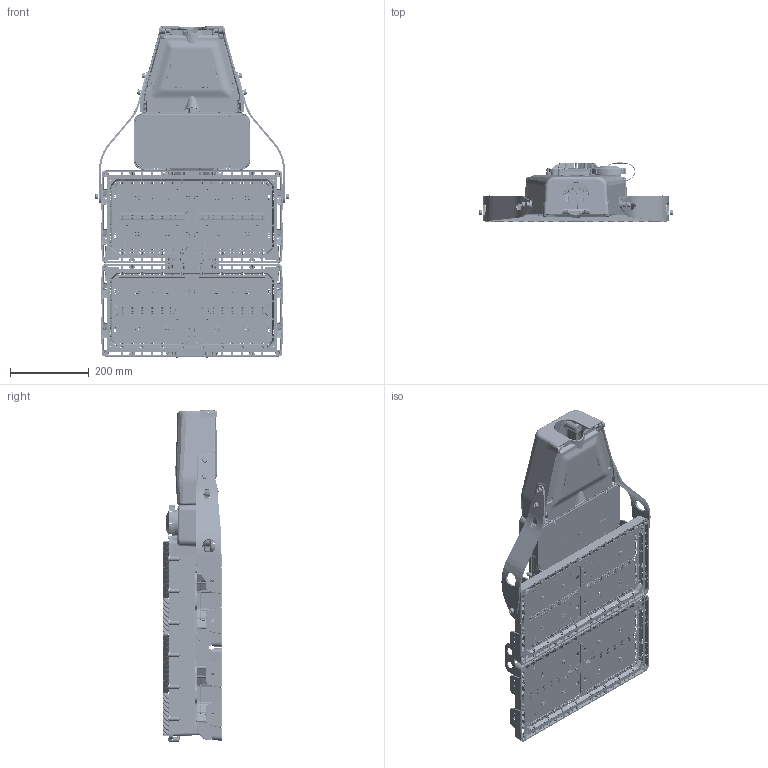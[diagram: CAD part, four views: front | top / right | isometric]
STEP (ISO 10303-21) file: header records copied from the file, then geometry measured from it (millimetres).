
FILE_DESCRIPTION((''),'2;1');
FILE_NAME('MARK_2SW','2023-02-22T17:06:41',('NSharma'),(''),'CREO PARAMETRIC BY PTC INC, 2021304','CREO PARAMETRIC BY PTC INC, 2021304','');
FILE_SCHEMA(('CONFIG_CONTROL_DESIGN'));
Products named in the file (1): MARK_2SW
Bounding box: 490.45 x 150.5 x 843.39 mm (x, y, z)
Surface area: 2311900.6 mm2 (no closed solid volume)
Topology: 0 solids, 1051 shells, 11596 faces, 47949 edges, 36372 vertices
Faces by surface type: plane 3482, cylinder 2949, bspline 2652, cone 1495, torus 977, sphere 39, extrusion 2
Entity records: 696041 total; most frequent: CARTESIAN_POINT 357692, ORIENTED_EDGE 64250, DIRECTION 58354, EDGE_CURVE 47937, VERTEX_POINT 36372, AXIS2_PLACEMENT_3D 20214, B_SPLINE_CURVE_WITH_KNOTS 18743, VECTOR 17926
